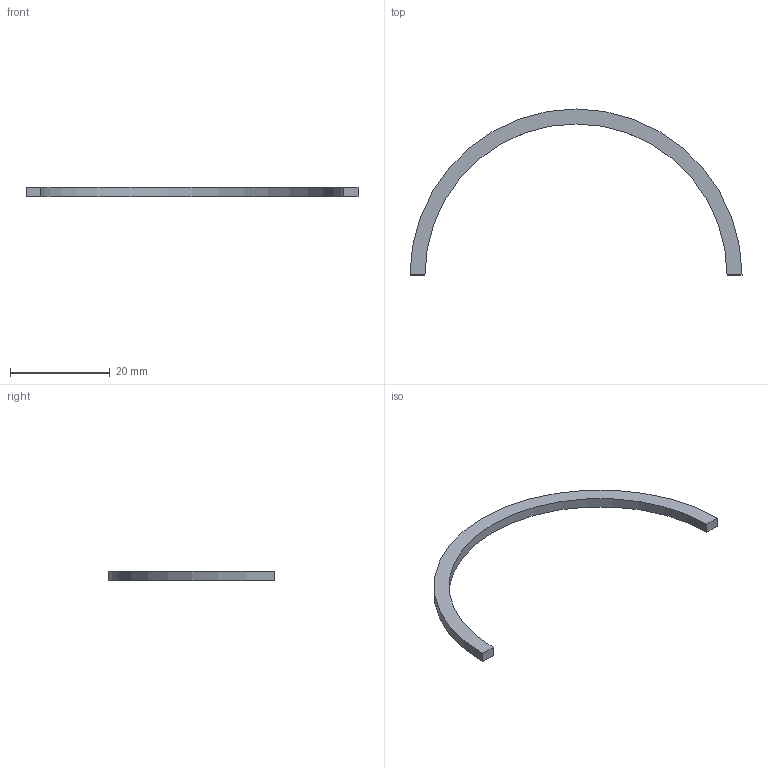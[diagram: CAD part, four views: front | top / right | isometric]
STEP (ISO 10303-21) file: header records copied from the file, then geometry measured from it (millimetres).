
FILE_DESCRIPTION(('Open CASCADE Model'),'2;1');
FILE_NAME('Open CASCADE Shape Model','2026-09-18T15:14:32',('Author'),( 'Open CASCADE'),'Open CASCADE STEP processor 7.9','Open CASCADE 7.9' ,'Unknown');
FILE_SCHEMA(('AUTOMOTIVE_DESIGN { 1 0 10303 214 1 1 1 1 }'));
Length unit declared in the file: millimetre
Products named in the file (1): Open CASCADE STEP translator 7.9 6
Bounding box: 66.6 x 33.3 x 2 mm (x, y, z)
Volume: 599.4 mm3; surface area: 1011 mm2
Topology: 1 solids, 1 shells, 6 faces, 12 edges, 8 vertices
Faces by surface type: plane 4, cylinder 2
Entity records: 314 total; most frequent: CARTESIAN_POINT 63, DIRECTION 42, ORIENTED_EDGE 24, PCURVE 24, DEFINITIONAL_REPRESENTATION 24, LINE 16, VECTOR 16, EDGE_CURVE 12
